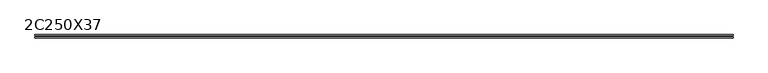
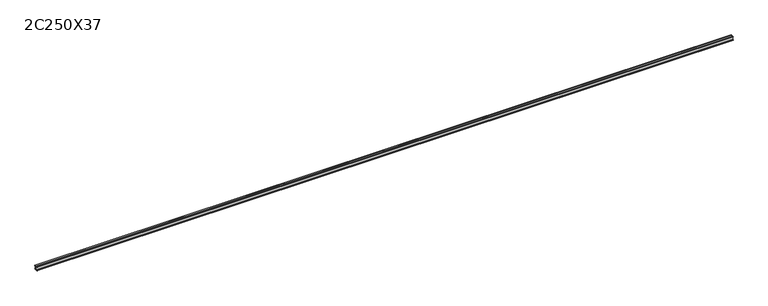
"""IFC4 building model written with IfcOpenShell, lengths in millimetres: beam geometry, Profilato a doppia C : 2C250X37."""

from ifc_helpers import new_model, si_unit, point, frame, frame_2d, origin, place, context, project, spatial, polyline, circle_curve, trimmed, segment, composite_curve, outline, extrude, source, transform, mapped, element, save


def beam_2c250x37_978da5da(model_context):
    return source(origin(), model_context, "Body", "SweptSolid", [
        extrude(outline(composite_curve([segment(polyline([(50.0, 127.0), (123.3, 127.0)]), True, "CONTINUOUS"), segment(trimmed(circle_curve(frame_2d((112.2, 127.0)), 11.1), [point((123.3, 127.0))], [point((112.2, 115.9))], False, "CARTESIAN"), True, "CONTINUOUS"), segment(polyline([(112.2, 115.9), (63.4, 108.1708393), (63.4, -108.1708393), (112.2, -115.9)]), True, "CONTINUOUS"), segment(trimmed(circle_curve(frame_2d((112.2, -127.0)), 11.1), [point((112.2, -115.9))], [point((123.3, -127.0))], False, "CARTESIAN"), True, "CONTINUOUS"), segment(polyline([(123.3, -127.0), (50.0, -127.0), (50.0, 127.0)]), True, "CONTINUOUS")], self_intersect=False)), frame((-26000.0, 0.0, 0.0), z_axis=(1.0, 0.0, 0.0), x_axis=(0.0, 1.0, 0.0)), (0.0, 0.0, 1.0), 52000.0),
        extrude(outline(composite_curve([segment(polyline([(-50.0, 127.0), (-50.0, -127.0), (-123.3, -127.0)]), True, "CONTINUOUS"), segment(trimmed(circle_curve(frame_2d((-112.2, -127.0)), 11.1), [point((-123.3, -127.0))], [point((-112.2, -115.9))], False, "CARTESIAN"), True, "CONTINUOUS"), segment(polyline([(-112.2, -115.9), (-63.4, -108.1708393), (-63.4, 108.1708393), (-112.2, 115.9)]), True, "CONTINUOUS"), segment(trimmed(circle_curve(frame_2d((-112.2, 127.0)), 11.1), [point((-112.2, 115.9))], [point((-123.3, 127.0))], False, "CARTESIAN"), True, "CONTINUOUS"), segment(polyline([(-123.3, 127.0), (-50.0, 127.0)]), True, "CONTINUOUS")], self_intersect=False)), frame((-26000.0, 0.0, 0.0), z_axis=(1.0, 0.0, 0.0), x_axis=(0.0, 1.0, 0.0)), (0.0, 0.0, 1.0), 52000.0),
    ])


if __name__ == "__main__":
    model = new_model("IFC4")
    model_context = context("Model", 3, world=origin())
    ifc_project = project(units=[si_unit("LENGTHUNIT", "METRE", prefix="MILLI")], contexts=[model_context])
    site = spatial("IfcSite", under=ifc_project)
    building = spatial("IfcBuilding", under=site)
    placement = place(None, origin())
    beam_2c250x37_shape = beam_2c250x37_978da5da(model_context)
    element("IfcBeam", 1, ObjectType="Profilato a doppia C : 2C250X37", at=placement, inside=building, context=model_context, shape_type="MappedRepresentation", body=[
        mapped(beam_2c250x37_shape, transform((0.0, 0.0, 0.0), x_axis=(1.0, 0.0, 0.0), y_axis=(0.0, 1.0, 0.0), z_axis=(0.0, 0.0, 1.0))),
    ])
    save(model, "model.ifc")
